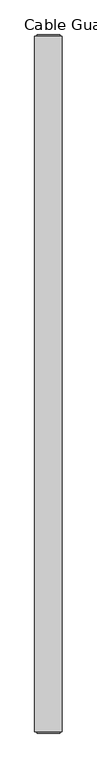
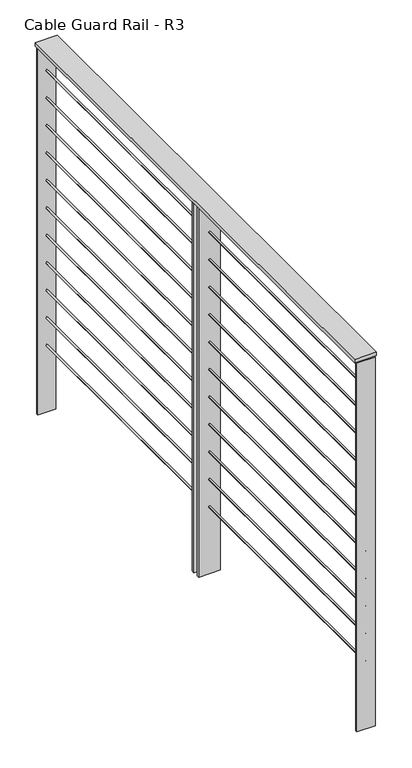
"""IFC4 building model written with IfcOpenShell, lengths in millimetres: railing geometry, Cable Guard Rail - R3."""

from ifc_helpers import new_model, si_unit, point, frame, frame_2d, origin, place, context, project, spatial, polyline, circle_curve, trimmed, segment, composite_curve, outline, extrude, source, transform, mapped, element, save


def cable_guard_rail_r3_a1fcecac(model_context):
    return source(origin(), model_context, "Body", "SweptSolid", [
        extrude(outline(polyline([(40071.6390585, 188223.6056087), (39995.4390585, 188223.6056087), (39995.4390585, 190155.5599012), (40071.6390585, 190155.5599012), (40071.6390585, 188223.6056087)])), frame((0.0, 0.0, 295916.35), z_axis=(0.0, 0.0, 1.0), x_axis=(1.0, 0.0, 0.0)), (0.0, 0.0, 1.0), 12.7),
        extrude(outline(composite_curve([segment(trimmed(circle_curve(frame_2d((295814.75, 40033.5390585)), 3.175), [point((295814.75, 40030.3640585))], [point((295814.75, 40036.7140585))], False, "CARTESIAN"), True, "CONTINUOUS"), segment(trimmed(circle_curve(frame_2d((295814.75, 40033.5390585)), 3.175), [point((295814.75, 40036.7140585))], [point((295814.75, 40030.3640585))], False, "CARTESIAN"), True, "CONTINUOUS")], self_intersect=False)), frame((0.0, 188223.6056087, 0.0), z_axis=(0.0, 1.0, 0.0), x_axis=(0.0, 0.0, 1.0)), (0.0, 0.0, 1.0), 1931.9542925),
        extrude(outline(composite_curve([segment(trimmed(circle_curve(frame_2d((295713.15, 40033.5390585)), 3.175), [point((295713.15, 40030.3640585))], [point((295713.15, 40036.7140585))], False, "CARTESIAN"), True, "CONTINUOUS"), segment(trimmed(circle_curve(frame_2d((295713.15, 40033.5390585)), 3.175), [point((295713.15, 40036.7140585))], [point((295713.15, 40030.3640585))], False, "CARTESIAN"), True, "CONTINUOUS")], self_intersect=False)), frame((0.0, 188223.6056087, 0.0), z_axis=(0.0, 1.0, 0.0), x_axis=(0.0, 0.0, 1.0)), (0.0, 0.0, 1.0), 1931.9542925),
        extrude(outline(composite_curve([segment(trimmed(circle_curve(frame_2d((295611.55, 40033.5390585)), 3.175), [point((295611.55, 40030.3640585))], [point((295611.55, 40036.7140585))], False, "CARTESIAN"), True, "CONTINUOUS"), segment(trimmed(circle_curve(frame_2d((295611.55, 40033.5390585)), 3.175), [point((295611.55, 40036.7140585))], [point((295611.55, 40030.3640585))], False, "CARTESIAN"), True, "CONTINUOUS")], self_intersect=False)), frame((0.0, 188223.6056087, 0.0), z_axis=(0.0, 1.0, 0.0), x_axis=(0.0, 0.0, 1.0)), (0.0, 0.0, 1.0), 1931.9542925),
        extrude(outline(composite_curve([segment(trimmed(circle_curve(frame_2d((295509.95, 40033.5390585)), 3.175), [point((295509.95, 40030.3640585))], [point((295509.95, 40036.7140585))], False, "CARTESIAN"), True, "CONTINUOUS"), segment(trimmed(circle_curve(frame_2d((295509.95, 40033.5390585)), 3.175), [point((295509.95, 40036.7140585))], [point((295509.95, 40030.3640585))], False, "CARTESIAN"), True, "CONTINUOUS")], self_intersect=False)), frame((0.0, 188223.6056087, 0.0), z_axis=(0.0, 1.0, 0.0), x_axis=(0.0, 0.0, 1.0)), (0.0, 0.0, 1.0), 1931.9542925),
        extrude(outline(composite_curve([segment(trimmed(circle_curve(frame_2d((295408.35, 40033.5390585)), 3.175), [point((295408.35, 40030.3640585))], [point((295408.35, 40036.7140585))], False, "CARTESIAN"), True, "CONTINUOUS"), segment(trimmed(circle_curve(frame_2d((295408.35, 40033.5390585)), 3.175), [point((295408.35, 40036.7140585))], [point((295408.35, 40030.3640585))], False, "CARTESIAN"), True, "CONTINUOUS")], self_intersect=False)), frame((0.0, 188223.6056087, 0.0), z_axis=(0.0, 1.0, 0.0), x_axis=(0.0, 0.0, 1.0)), (0.0, 0.0, 1.0), 1931.9542925),
        extrude(outline(composite_curve([segment(trimmed(circle_curve(frame_2d((295306.75, 40033.5390585)), 3.175), [point((295306.75, 40030.3640585))], [point((295306.75, 40036.7140585))], False, "CARTESIAN"), True, "CONTINUOUS"), segment(trimmed(circle_curve(frame_2d((295306.75, 40033.5390585)), 3.175), [point((295306.75, 40036.7140585))], [point((295306.75, 40030.3640585))], False, "CARTESIAN"), True, "CONTINUOUS")], self_intersect=False)), frame((0.0, 188223.6056087, 0.0), z_axis=(0.0, 1.0, 0.0), x_axis=(0.0, 0.0, 1.0)), (0.0, 0.0, 1.0), 1931.9542925),
        extrude(outline(composite_curve([segment(trimmed(circle_curve(frame_2d((295205.15, 40033.5390585)), 3.175), [point((295205.15, 40030.3640585))], [point((295205.15, 40036.7140585))], False, "CARTESIAN"), True, "CONTINUOUS"), segment(trimmed(circle_curve(frame_2d((295205.15, 40033.5390585)), 3.175), [point((295205.15, 40036.7140585))], [point((295205.15, 40030.3640585))], False, "CARTESIAN"), True, "CONTINUOUS")], self_intersect=False)), frame((0.0, 188223.6056087, 0.0), z_axis=(0.0, 1.0, 0.0), x_axis=(0.0, 0.0, 1.0)), (0.0, 0.0, 1.0), 1931.9542925),
        extrude(outline(composite_curve([segment(trimmed(circle_curve(frame_2d((295103.55, 40033.5390585)), 3.175), [point((295103.55, 40030.3640585))], [point((295103.55, 40036.7140585))], False, "CARTESIAN"), True, "CONTINUOUS"), segment(trimmed(circle_curve(frame_2d((295103.55, 40033.5390585)), 3.175), [point((295103.55, 40036.7140585))], [point((295103.55, 40030.3640585))], False, "CARTESIAN"), True, "CONTINUOUS")], self_intersect=False)), frame((0.0, 188223.6056087, 0.0), z_axis=(0.0, 1.0, 0.0), x_axis=(0.0, 0.0, 1.0)), (0.0, 0.0, 1.0), 1931.9542925),
        extrude(outline(composite_curve([segment(trimmed(circle_curve(frame_2d((295001.95, 40033.5390585)), 3.175), [point((295001.95, 40030.3640585))], [point((295001.95, 40036.7140585))], False, "CARTESIAN"), True, "CONTINUOUS"), segment(trimmed(circle_curve(frame_2d((295001.95, 40033.5390585)), 3.175), [point((295001.95, 40036.7140585))], [point((295001.95, 40030.3640585))], False, "CARTESIAN"), True, "CONTINUOUS")], self_intersect=False)), frame((0.0, 188223.6056087, 0.0), z_axis=(0.0, 1.0, 0.0), x_axis=(0.0, 0.0, 1.0)), (0.0, 0.0, 1.0), 1931.9542925),
        extrude(outline(composite_curve([segment(trimmed(circle_curve(frame_2d((294900.35, 40033.5390585)), 3.175), [point((294900.35, 40030.3640585))], [point((294900.35, 40036.7140585))], False, "CARTESIAN"), True, "CONTINUOUS"), segment(trimmed(circle_curve(frame_2d((294900.35, 40033.5390585)), 3.175), [point((294900.35, 40036.7140585))], [point((294900.35, 40030.3640585))], False, "CARTESIAN"), True, "CONTINUOUS")], self_intersect=False)), frame((0.0, 188223.6056087, 0.0), z_axis=(0.0, 1.0, 0.0), x_axis=(0.0, 0.0, 1.0)), (0.0, 0.0, 1.0), 1931.9542925),
        extrude(outline(composite_curve([segment(trimmed(circle_curve(frame_2d((294798.75, 40033.5390585)), 3.175), [point((294798.75, 40030.3640585))], [point((294798.75, 40036.7140585))], False, "CARTESIAN"), True, "CONTINUOUS"), segment(trimmed(circle_curve(frame_2d((294798.75, 40033.5390585)), 3.175), [point((294798.75, 40036.7140585))], [point((294798.75, 40030.3640585))], False, "CARTESIAN"), True, "CONTINUOUS")], self_intersect=False)), frame((0.0, 188223.6056087, 0.0), z_axis=(0.0, 1.0, 0.0), x_axis=(0.0, 0.0, 1.0)), (0.0, 0.0, 1.0), 1931.9542925),
        extrude(outline(polyline([(39995.4390585, 189167.3577549), (39995.4390585, 189176.8827549), (40071.6390585, 189176.8827549), (40071.6390585, 189167.3577549), (39995.4390585, 189167.3577549)])), frame((0.0, 0.0, 294551.1), z_axis=(0.0, 0.0, 1.0), x_axis=(1.0, 0.0, 0.0)), (0.0, 0.0, 1.0), 1365.25),
        extrude(outline(polyline([(39995.4390585, 189195.9327549), (39995.4390585, 189205.4095195), (40071.6390585, 189205.4095195), (40071.6390585, 189195.9327549), (39995.4390585, 189195.9327549)])), frame((0.0, 0.0, 294551.1), z_axis=(0.0, 0.0, 1.0), x_axis=(1.0, 0.0, 0.0)), (0.0, 0.0, 1.0), 1365.25),
        extrude(outline(polyline([(40001.7890585, 190152.3849012), (40001.7890585, 190158.7349012), (40065.2890585, 190158.7349012), (40065.2890585, 190152.3849012), (40001.7890585, 190152.3849012)])), frame((0.0, 0.0, 294551.1), z_axis=(0.0, 0.0, 1.0), x_axis=(1.0, 0.0, 0.0)), (0.0, 0.0, 1.0), 1365.25),
        extrude(outline(polyline([(40001.7890585, 188220.4306087), (40001.7890585, 188226.7806087), (40065.2890585, 188226.7806087), (40065.2890585, 188220.4306087), (40001.7890585, 188220.4306087)])), frame((0.0, 0.0, 294551.1), z_axis=(0.0, 0.0, 1.0), x_axis=(1.0, 0.0, 0.0)), (0.0, 0.0, 1.0), 1365.25),
    ])


if __name__ == "__main__":
    model = new_model("IFC4")
    model_context = context("Model", 3, world=origin())
    ifc_project = project(units=[si_unit("LENGTHUNIT", "METRE", prefix="MILLI")], contexts=[model_context])
    site = spatial("IfcSite", under=ifc_project)
    building = spatial("IfcBuilding", under=site)
    placement = place(None, origin())
    cable_guard_rail_r3_shape = cable_guard_rail_r3_a1fcecac(model_context)
    element("IfcRailing", 1, ObjectType="Cable Guard Rail - R3", at=placement, inside=building, context=model_context, shape_type="MappedRepresentation", body=[
        mapped(cable_guard_rail_r3_shape, transform((0.0, 0.0, 0.0), x_axis=(1.0, 0.0, 0.0), y_axis=(0.0, 1.0, 0.0), z_axis=(0.0, 0.0, 1.0))),
    ])
    save(model, "model.ifc")
